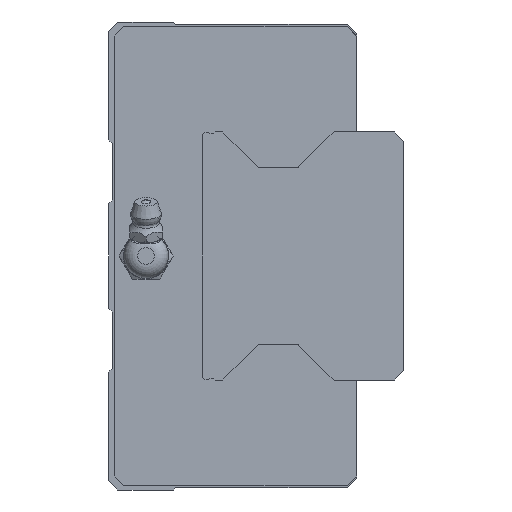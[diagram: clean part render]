
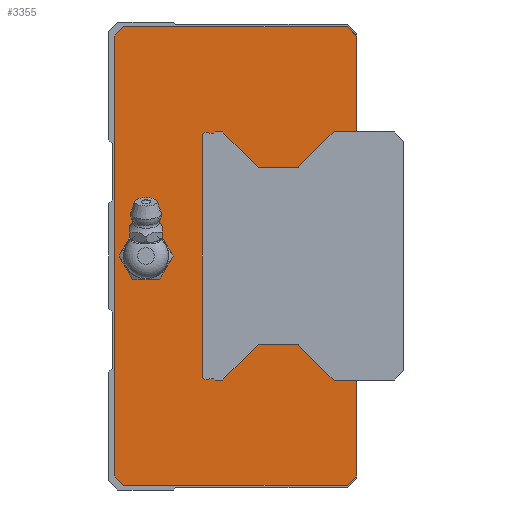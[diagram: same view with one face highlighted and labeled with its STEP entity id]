
A CAD part, left-side view. The second image highlights one B-rep face of the part: STEP entity #3355.
In plain terms, the highlighted planar face has unit normal (-1, 0, 0).
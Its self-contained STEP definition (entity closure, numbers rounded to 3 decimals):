
#169=CIRCLE('',#3668,4.864);
#170=CIRCLE('',#3669,0.3);
#171=CIRCLE('',#3670,0.3);
#172=CIRCLE('',#3671,1.);
#173=CIRCLE('',#3672,1.);
#174=CIRCLE('',#3673,0.3);
#175=CIRCLE('',#3674,0.3);
#657=ORIENTED_EDGE('',*,*,#1383,.T.);
#658=ORIENTED_EDGE('',*,*,#1384,.T.);
#659=ORIENTED_EDGE('',*,*,#1376,.F.);
#660=ORIENTED_EDGE('',*,*,#1304,.F.);
#661=ORIENTED_EDGE('',*,*,#1300,.F.);
#662=ORIENTED_EDGE('',*,*,#1292,.F.);
#663=ORIENTED_EDGE('',*,*,#1368,.F.);
#664=ORIENTED_EDGE('',*,*,#1277,.F.);
#665=ORIENTED_EDGE('',*,*,#1315,.F.);
#666=ORIENTED_EDGE('',*,*,#1312,.F.);
#667=ORIENTED_EDGE('',*,*,#1378,.F.);
#668=ORIENTED_EDGE('',*,*,#1385,.T.);
#669=ORIENTED_EDGE('',*,*,#1386,.T.);
#670=ORIENTED_EDGE('',*,*,#1387,.F.);
#671=ORIENTED_EDGE('',*,*,#1388,.T.);
#672=ORIENTED_EDGE('',*,*,#1389,.F.);
#673=ORIENTED_EDGE('',*,*,#1390,.T.);
#674=ORIENTED_EDGE('',*,*,#1391,.T.);
#675=ORIENTED_EDGE('',*,*,#1392,.T.);
#676=ORIENTED_EDGE('',*,*,#1393,.T.);
#677=ORIENTED_EDGE('',*,*,#1394,.T.);
#678=ORIENTED_EDGE('',*,*,#1395,.T.);
#679=ORIENTED_EDGE('',*,*,#1396,.T.);
#680=ORIENTED_EDGE('',*,*,#1397,.T.);
#681=ORIENTED_EDGE('',*,*,#1398,.T.);
#682=ORIENTED_EDGE('',*,*,#1399,.T.);
#683=ORIENTED_EDGE('',*,*,#1400,.T.);
#684=ORIENTED_EDGE('',*,*,#1401,.F.);
#685=ORIENTED_EDGE('',*,*,#1402,.T.);
#686=ORIENTED_EDGE('',*,*,#1403,.F.);
#687=ORIENTED_EDGE('',*,*,#1404,.T.);
#1277=EDGE_CURVE('',#1692,#1693,#1984,.T.);
#1292=EDGE_CURVE('',#1707,#1708,#1999,.T.);
#1300=EDGE_CURVE('',#1708,#1714,#2006,.T.);
#1304=EDGE_CURVE('',#1714,#1716,#2010,.T.);
#1312=EDGE_CURVE('',#1723,#1724,#2018,.T.);
#1315=EDGE_CURVE('',#1724,#1692,#2021,.T.);
#1368=EDGE_CURVE('',#1693,#1707,#2071,.T.);
#1376=EDGE_CURVE('',#1716,#1763,#2079,.T.);
#1378=EDGE_CURVE('',#1766,#1723,#2081,.T.);
#1383=EDGE_CURVE('',#1770,#1770,#169,.T.);
#1384=EDGE_CURVE('',#1771,#1763,#2086,.T.);
#1385=EDGE_CURVE('',#1766,#1772,#2087,.T.);
#1386=EDGE_CURVE('',#1772,#1773,#2088,.T.);
#1387=EDGE_CURVE('',#1774,#1773,#170,.T.);
#1388=EDGE_CURVE('',#1774,#1775,#2089,.T.);
#1389=EDGE_CURVE('',#1776,#1775,#171,.T.);
#1390=EDGE_CURVE('',#1776,#1777,#2090,.T.);
#1391=EDGE_CURVE('',#1777,#1778,#2091,.T.);
#1392=EDGE_CURVE('',#1778,#1779,#2092,.T.);
#1393=EDGE_CURVE('',#1779,#1780,#2093,.T.);
#1394=EDGE_CURVE('',#1780,#1781,#172,.T.);
#1395=EDGE_CURVE('',#1781,#1782,#2094,.T.);
#1396=EDGE_CURVE('',#1782,#1783,#173,.T.);
#1397=EDGE_CURVE('',#1783,#1784,#2095,.T.);
#1398=EDGE_CURVE('',#1784,#1785,#2096,.T.);
#1399=EDGE_CURVE('',#1785,#1786,#2097,.T.);
#1400=EDGE_CURVE('',#1786,#1787,#2098,.T.);
#1401=EDGE_CURVE('',#1788,#1787,#174,.T.);
#1402=EDGE_CURVE('',#1788,#1789,#2099,.T.);
#1403=EDGE_CURVE('',#1790,#1789,#175,.T.);
#1404=EDGE_CURVE('',#1790,#1771,#2100,.T.);
#1692=VERTEX_POINT('',#5096);
#1693=VERTEX_POINT('',#5098);
#1707=VERTEX_POINT('',#5127);
#1708=VERTEX_POINT('',#5129);
#1714=VERTEX_POINT('',#5145);
#1716=VERTEX_POINT('',#5152);
#1723=VERTEX_POINT('',#5167);
#1724=VERTEX_POINT('',#5169);
#1763=VERTEX_POINT('',#5282);
#1766=VERTEX_POINT('',#5292);
#1770=VERTEX_POINT('',#5303);
#1771=VERTEX_POINT('',#5305);
#1772=VERTEX_POINT('',#5307);
#1773=VERTEX_POINT('',#5309);
#1774=VERTEX_POINT('',#5311);
#1775=VERTEX_POINT('',#5313);
#1776=VERTEX_POINT('',#5315);
#1777=VERTEX_POINT('',#5317);
#1778=VERTEX_POINT('',#5319);
#1779=VERTEX_POINT('',#5321);
#1780=VERTEX_POINT('',#5323);
#1781=VERTEX_POINT('',#5325);
#1782=VERTEX_POINT('',#5327);
#1783=VERTEX_POINT('',#5329);
#1784=VERTEX_POINT('',#5331);
#1785=VERTEX_POINT('',#5333);
#1786=VERTEX_POINT('',#5335);
#1787=VERTEX_POINT('',#5337);
#1788=VERTEX_POINT('',#5339);
#1789=VERTEX_POINT('',#5341);
#1790=VERTEX_POINT('',#5343);
#1984=LINE('',#5097,#2272);
#1999=LINE('',#5128,#2287);
#2006=LINE('',#5144,#2294);
#2010=LINE('',#5151,#2298);
#2018=LINE('',#5168,#2306);
#2021=LINE('',#5173,#2309);
#2071=LINE('',#5275,#2359);
#2079=LINE('',#5289,#2367);
#2081=LINE('',#5294,#2369);
#2086=LINE('',#5304,#2374);
#2087=LINE('',#5306,#2375);
#2088=LINE('',#5308,#2376);
#2089=LINE('',#5312,#2377);
#2090=LINE('',#5316,#2378);
#2091=LINE('',#5318,#2379);
#2092=LINE('',#5320,#2380);
#2093=LINE('',#5322,#2381);
#2094=LINE('',#5326,#2382);
#2095=LINE('',#5330,#2383);
#2096=LINE('',#5332,#2384);
#2097=LINE('',#5334,#2385);
#2098=LINE('',#5336,#2386);
#2099=LINE('',#5340,#2387);
#2100=LINE('',#5344,#2388);
#2272=VECTOR('',#4170,1000.);
#2287=VECTOR('',#4187,1000.);
#2294=VECTOR('',#4200,1000.);
#2298=VECTOR('',#4206,1000.);
#2306=VECTOR('',#4216,1000.);
#2309=VECTOR('',#4221,1000.);
#2359=VECTOR('',#4301,1000.);
#2367=VECTOR('',#4313,1000.);
#2369=VECTOR('',#4317,1000.);
#2374=VECTOR('',#4326,1000.);
#2375=VECTOR('',#4327,1000.);
#2376=VECTOR('',#4328,1000.);
#2377=VECTOR('',#4331,1000.);
#2378=VECTOR('',#4334,1000.);
#2379=VECTOR('',#4335,1000.);
#2380=VECTOR('',#4336,1000.);
#2381=VECTOR('',#4337,1000.);
#2382=VECTOR('',#4340,1000.);
#2383=VECTOR('',#4343,1000.);
#2384=VECTOR('',#4344,1000.);
#2385=VECTOR('',#4345,1000.);
#2386=VECTOR('',#4346,1000.);
#2387=VECTOR('',#4349,1000.);
#2388=VECTOR('',#4352,1000.);
#2654=EDGE_LOOP('',(#657));
#2655=EDGE_LOOP('',(#658,#659,#660,#661,#662,#663,#664,#665,#666,#667,#668,
#669,#670,#671,#672,#673,#674,#675,#676,#677,#678,#679,#680,#681,#682,#683,
#684,#685,#686,#687));
#2971=FACE_BOUND('',#2654,.T.);
#2972=FACE_BOUND('',#2655,.T.);
#3195=PLANE('',#3667);
#3355=ADVANCED_FACE('',(#2971,#2972),#3195,.F.);
#3667=AXIS2_PLACEMENT_3D('',#5301,#4322,#4323);
#3668=AXIS2_PLACEMENT_3D('',#5302,#4324,#4325);
#3669=AXIS2_PLACEMENT_3D('',#5310,#4329,#4330);
#3670=AXIS2_PLACEMENT_3D('',#5314,#4332,#4333);
#3671=AXIS2_PLACEMENT_3D('',#5324,#4338,#4339);
#3672=AXIS2_PLACEMENT_3D('',#5328,#4341,#4342);
#3673=AXIS2_PLACEMENT_3D('',#5338,#4347,#4348);
#3674=AXIS2_PLACEMENT_3D('',#5342,#4350,#4351);
#4170=DIRECTION('',(0.,0.707,0.707));
#4187=DIRECTION('',(0.,-0.707,0.707));
#4200=DIRECTION('',(0.,-1.,0.));
#4206=DIRECTION('',(0.,-0.707,-0.707));
#4216=DIRECTION('',(0.,0.707,-0.707));
#4221=DIRECTION('',(0.,1.,0.));
#4301=DIRECTION('',(0.,0.,1.));
#4313=DIRECTION('',(0.,0.,-1.));
#4317=DIRECTION('',(0.,0.,-1.));
#4322=DIRECTION('',(1.,0.,0.));
#4323=DIRECTION('',(0.,0.,-1.));
#4324=DIRECTION('',(1.,0.,0.));
#4325=DIRECTION('',(0.,0.,-1.));
#4326=DIRECTION('',(0.,-1.,0.));
#4327=DIRECTION('',(0.,1.,0.));
#4328=DIRECTION('',(0.,0.712,0.702));
#4329=DIRECTION('',(1.,0.,0.));
#4330=DIRECTION('',(0.,0.,-1.));
#4331=DIRECTION('',(0.,1.,0.));
#4332=DIRECTION('',(1.,0.,0.));
#4333=DIRECTION('',(0.,0.,-1.));
#4334=DIRECTION('',(0.,0.707,-0.707));
#4335=DIRECTION('',(0.,1.,0.));
#4336=DIRECTION('',(0.,0.707,0.707));
#4337=DIRECTION('',(0.,1.,0.));
#4338=DIRECTION('',(1.,0.,0.));
#4339=DIRECTION('',(0.,0.,-1.));
#4340=DIRECTION('',(0.,0.,1.));
#4341=DIRECTION('',(1.,0.,0.));
#4342=DIRECTION('',(0.,0.,-1.));
#4343=DIRECTION('',(0.,-1.,0.));
#4344=DIRECTION('',(0.,-0.707,0.707));
#4345=DIRECTION('',(0.,-1.,0.));
#4346=DIRECTION('',(0.,-0.707,-0.707));
#4347=DIRECTION('',(1.,0.,0.));
#4348=DIRECTION('',(0.,0.,-1.));
#4349=DIRECTION('',(0.,-1.,0.));
#4350=DIRECTION('',(1.,0.,0.));
#4351=DIRECTION('',(0.,0.,-1.));
#4352=DIRECTION('',(0.,-0.712,0.702));
#5096=CARTESIAN_POINT('',(-117.5,49.8,-49.));
#5097=CARTESIAN_POINT('',(-117.5,49.8,-49.));
#5098=CARTESIAN_POINT('',(-117.5,51.8,-47.));
#5127=CARTESIAN_POINT('',(-117.5,51.8,47.));
#5128=CARTESIAN_POINT('',(-117.5,51.8,47.));
#5129=CARTESIAN_POINT('',(-117.5,49.8,49.));
#5144=CARTESIAN_POINT('',(-117.5,49.8,49.));
#5145=CARTESIAN_POINT('',(-117.5,2.,49.));
#5151=CARTESIAN_POINT('',(-117.5,2.,49.));
#5152=CARTESIAN_POINT('',(-117.5,0.,47.));
#5167=CARTESIAN_POINT('',(-117.5,0.,-47.));
#5168=CARTESIAN_POINT('',(-117.5,0.,-47.));
#5169=CARTESIAN_POINT('',(-117.5,2.,-49.));
#5173=CARTESIAN_POINT('',(-117.5,2.,-49.));
#5275=CARTESIAN_POINT('',(-117.5,51.8,-47.));
#5282=CARTESIAN_POINT('',(-117.5,0.,26.5));
#5289=CARTESIAN_POINT('',(-117.5,0.,47.));
#5292=CARTESIAN_POINT('',(-117.5,0.,-26.5));
#5294=CARTESIAN_POINT('',(-117.5,0.,47.));
#5301=CARTESIAN_POINT('',(-117.5,0.,0.));
#5302=CARTESIAN_POINT('',(-117.5,45.,0.));
#5303=CARTESIAN_POINT('',(-117.5,45.,-4.864));
#5304=CARTESIAN_POINT('',(-117.5,4.83,26.5));
#5305=CARTESIAN_POINT('',(-117.5,4.83,26.5));
#5306=CARTESIAN_POINT('',(-117.5,-8.,-26.5));
#5307=CARTESIAN_POINT('',(-117.5,4.83,-26.5));
#5308=CARTESIAN_POINT('',(-117.5,4.83,-26.5));
#5309=CARTESIAN_POINT('',(-117.5,12.342,-19.086));
#5310=CARTESIAN_POINT('',(-117.5,12.553,-19.3));
#5311=CARTESIAN_POINT('',(-117.5,12.553,-19.));
#5312=CARTESIAN_POINT('',(-117.5,12.553,-19.));
#5313=CARTESIAN_POINT('',(-117.5,20.976,-19.));
#5314=CARTESIAN_POINT('',(-117.5,20.976,-19.3));
#5315=CARTESIAN_POINT('',(-117.5,21.188,-19.088));
#5316=CARTESIAN_POINT('',(-117.5,21.188,-19.088));
#5317=CARTESIAN_POINT('',(-117.5,28.6,-26.5));
#5318=CARTESIAN_POINT('',(-117.5,28.6,-26.5));
#5319=CARTESIAN_POINT('',(-117.5,30.25,-26.5));
#5320=CARTESIAN_POINT('',(-117.5,30.25,-26.5));
#5321=CARTESIAN_POINT('',(-117.5,30.5,-26.25));
#5322=CARTESIAN_POINT('',(-117.5,30.5,-26.25));
#5323=CARTESIAN_POINT('',(-117.5,31.339,-26.25));
#5324=CARTESIAN_POINT('',(-117.5,32.,-25.5));
#5325=CARTESIAN_POINT('',(-117.5,33.,-25.5));
#5326=CARTESIAN_POINT('',(-117.5,33.,-25.5));
#5327=CARTESIAN_POINT('',(-117.5,33.,25.5));
#5328=CARTESIAN_POINT('',(-117.5,32.,25.5));
#5329=CARTESIAN_POINT('',(-117.5,31.339,26.25));
#5330=CARTESIAN_POINT('',(-117.5,31.339,26.25));
#5331=CARTESIAN_POINT('',(-117.5,30.5,26.25));
#5332=CARTESIAN_POINT('',(-117.5,30.5,26.25));
#5333=CARTESIAN_POINT('',(-117.5,30.25,26.5));
#5334=CARTESIAN_POINT('',(-117.5,30.25,26.5));
#5335=CARTESIAN_POINT('',(-117.5,28.6,26.5));
#5336=CARTESIAN_POINT('',(-117.5,28.6,26.5));
#5337=CARTESIAN_POINT('',(-117.5,21.188,19.088));
#5338=CARTESIAN_POINT('',(-117.5,20.976,19.3));
#5339=CARTESIAN_POINT('',(-117.5,20.976,19.));
#5340=CARTESIAN_POINT('',(-117.5,20.976,19.));
#5341=CARTESIAN_POINT('',(-117.5,12.553,19.));
#5342=CARTESIAN_POINT('',(-117.5,12.553,19.3));
#5343=CARTESIAN_POINT('',(-117.5,12.342,19.086));
#5344=CARTESIAN_POINT('',(-117.5,12.342,19.086));
